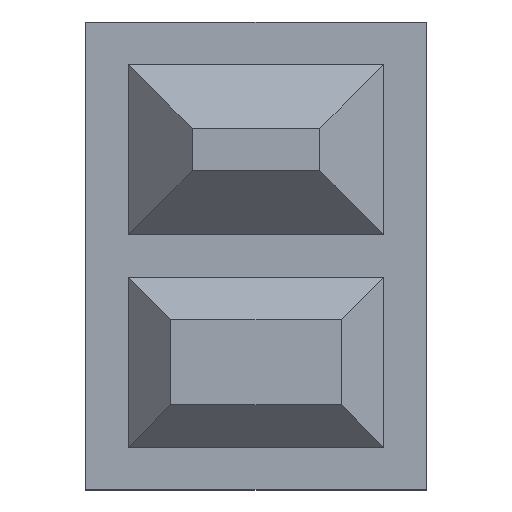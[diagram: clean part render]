
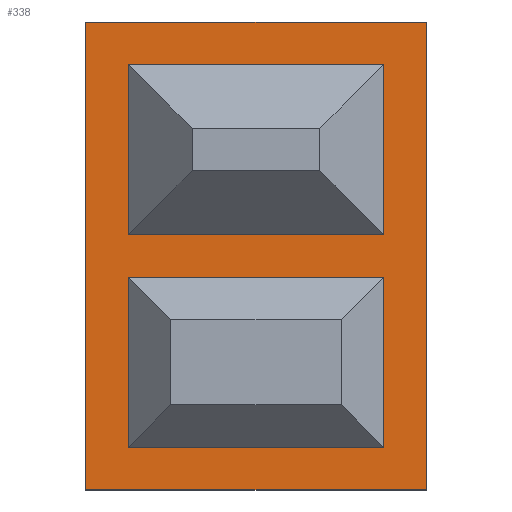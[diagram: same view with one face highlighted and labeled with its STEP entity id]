
A CAD part, top view. The second image highlights one B-rep face of the part: STEP entity #338.
In plain terms, the highlighted planar face has unit normal (0, 0, 1).
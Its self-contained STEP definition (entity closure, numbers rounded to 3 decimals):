
#24 = VERTEX_POINT('',#25);
#25 = CARTESIAN_POINT('',(0.,0.,1.));
#32 = PLANE('',#33);
#33 = AXIS2_PLACEMENT_3D('',#34,#35,#36);
#34 = CARTESIAN_POINT('',(0.,0.,0.));
#35 = DIRECTION('',(0.,1.,0.));
#36 = DIRECTION('',(1.,0.,0.));
#44 = PLANE('',#45);
#45 = AXIS2_PLACEMENT_3D('',#46,#47,#48);
#46 = CARTESIAN_POINT('',(0.,11.,0.));
#47 = DIRECTION('',(1.,0.,0.));
#48 = DIRECTION('',(0.,-1.,0.));
#56 = EDGE_CURVE('',#24,#57,#59,.T.);
#57 = VERTEX_POINT('',#58);
#58 = CARTESIAN_POINT('',(8.,0.,1.));
#59 = SURFACE_CURVE('',#60,(#64,#71),.PCURVE_S1.);
#60 = LINE('',#61,#62);
#61 = CARTESIAN_POINT('',(0.,0.,1.));
#62 = VECTOR('',#63,1.);
#63 = DIRECTION('',(1.,0.,0.));
#64 = PCURVE('',#32,#65);
#65 = DEFINITIONAL_REPRESENTATION('',(#66),#70);
#66 = LINE('',#67,#68);
#67 = CARTESIAN_POINT('',(0.,-1.));
#68 = VECTOR('',#69,1.);
#69 = DIRECTION('',(1.,0.));
#70 = ( GEOMETRIC_REPRESENTATION_CONTEXT(2) 
PARAMETRIC_REPRESENTATION_CONTEXT() REPRESENTATION_CONTEXT('2D SPACE',''
  ) );
#71 = PCURVE('',#72,#77);
#72 = PLANE('',#73);
#73 = AXIS2_PLACEMENT_3D('',#74,#75,#76);
#74 = CARTESIAN_POINT('',(0.,0.,1.));
#75 = DIRECTION('',(0.,0.,-1.));
#76 = DIRECTION('',(-1.,0.,0.));
#77 = DEFINITIONAL_REPRESENTATION('',(#78),#82);
#78 = LINE('',#79,#80);
#79 = CARTESIAN_POINT('',(0.,0.));
#80 = VECTOR('',#81,1.);
#81 = DIRECTION('',(-1.,0.));
#82 = ( GEOMETRIC_REPRESENTATION_CONTEXT(2) 
PARAMETRIC_REPRESENTATION_CONTEXT() REPRESENTATION_CONTEXT('2D SPACE',''
  ) );
#100 = PLANE('',#101);
#101 = AXIS2_PLACEMENT_3D('',#102,#103,#104);
#102 = CARTESIAN_POINT('',(8.,0.,0.));
#103 = DIRECTION('',(-1.,0.,0.));
#104 = DIRECTION('',(0.,1.,0.));
#142 = EDGE_CURVE('',#57,#143,#145,.T.);
#143 = VERTEX_POINT('',#144);
#144 = CARTESIAN_POINT('',(8.,11.,1.));
#145 = SURFACE_CURVE('',#146,(#150,#157),.PCURVE_S1.);
#146 = LINE('',#147,#148);
#147 = CARTESIAN_POINT('',(8.,0.,1.));
#148 = VECTOR('',#149,1.);
#149 = DIRECTION('',(0.,1.,0.));
#150 = PCURVE('',#100,#151);
#151 = DEFINITIONAL_REPRESENTATION('',(#152),#156);
#152 = LINE('',#153,#154);
#153 = CARTESIAN_POINT('',(0.,-1.));
#154 = VECTOR('',#155,1.);
#155 = DIRECTION('',(1.,0.));
#156 = ( GEOMETRIC_REPRESENTATION_CONTEXT(2) 
PARAMETRIC_REPRESENTATION_CONTEXT() REPRESENTATION_CONTEXT('2D SPACE',''
  ) );
#157 = PCURVE('',#72,#158);
#158 = DEFINITIONAL_REPRESENTATION('',(#159),#163);
#159 = LINE('',#160,#161);
#160 = CARTESIAN_POINT('',(-8.,0.));
#161 = VECTOR('',#162,1.);
#162 = DIRECTION('',(0.,1.));
#163 = ( GEOMETRIC_REPRESENTATION_CONTEXT(2) 
PARAMETRIC_REPRESENTATION_CONTEXT() REPRESENTATION_CONTEXT('2D SPACE',''
  ) );
#181 = PLANE('',#182);
#182 = AXIS2_PLACEMENT_3D('',#183,#184,#185);
#183 = CARTESIAN_POINT('',(8.,11.,0.));
#184 = DIRECTION('',(0.,-1.,0.));
#185 = DIRECTION('',(-1.,0.,0.));
#218 = EDGE_CURVE('',#143,#219,#221,.T.);
#219 = VERTEX_POINT('',#220);
#220 = CARTESIAN_POINT('',(0.,11.,1.));
#221 = SURFACE_CURVE('',#222,(#226,#233),.PCURVE_S1.);
#222 = LINE('',#223,#224);
#223 = CARTESIAN_POINT('',(8.,11.,1.));
#224 = VECTOR('',#225,1.);
#225 = DIRECTION('',(-1.,0.,0.));
#226 = PCURVE('',#181,#227);
#227 = DEFINITIONAL_REPRESENTATION('',(#228),#232);
#228 = LINE('',#229,#230);
#229 = CARTESIAN_POINT('',(0.,-1.));
#230 = VECTOR('',#231,1.);
#231 = DIRECTION('',(1.,0.));
#232 = ( GEOMETRIC_REPRESENTATION_CONTEXT(2) 
PARAMETRIC_REPRESENTATION_CONTEXT() REPRESENTATION_CONTEXT('2D SPACE',''
  ) );
#233 = PCURVE('',#72,#234);
#234 = DEFINITIONAL_REPRESENTATION('',(#235),#239);
#235 = LINE('',#236,#237);
#236 = CARTESIAN_POINT('',(-8.,11.));
#237 = VECTOR('',#238,1.);
#238 = DIRECTION('',(1.,0.));
#239 = ( GEOMETRIC_REPRESENTATION_CONTEXT(2) 
PARAMETRIC_REPRESENTATION_CONTEXT() REPRESENTATION_CONTEXT('2D SPACE',''
  ) );
#289 = EDGE_CURVE('',#219,#24,#290,.T.);
#290 = SURFACE_CURVE('',#291,(#295,#302),.PCURVE_S1.);
#291 = LINE('',#292,#293);
#292 = CARTESIAN_POINT('',(0.,11.,1.));
#293 = VECTOR('',#294,1.);
#294 = DIRECTION('',(0.,-1.,0.));
#295 = PCURVE('',#44,#296);
#296 = DEFINITIONAL_REPRESENTATION('',(#297),#301);
#297 = LINE('',#298,#299);
#298 = CARTESIAN_POINT('',(0.,-1.));
#299 = VECTOR('',#300,1.);
#300 = DIRECTION('',(1.,0.));
#301 = ( GEOMETRIC_REPRESENTATION_CONTEXT(2) 
PARAMETRIC_REPRESENTATION_CONTEXT() REPRESENTATION_CONTEXT('2D SPACE',''
  ) );
#302 = PCURVE('',#72,#303);
#303 = DEFINITIONAL_REPRESENTATION('',(#304),#308);
#304 = LINE('',#305,#306);
#305 = CARTESIAN_POINT('',(0.,11.));
#306 = VECTOR('',#307,1.);
#307 = DIRECTION('',(0.,-1.));
#308 = ( GEOMETRIC_REPRESENTATION_CONTEXT(2) 
PARAMETRIC_REPRESENTATION_CONTEXT() REPRESENTATION_CONTEXT('2D SPACE',''
  ) );
#338 = ADVANCED_FACE('',(#339),#72,.F.);
#339 = FACE_BOUND('',#340,.T.);
#340 = EDGE_LOOP('',(#341,#342,#343,#344));
#341 = ORIENTED_EDGE('',*,*,#56,.T.);
#342 = ORIENTED_EDGE('',*,*,#142,.T.);
#343 = ORIENTED_EDGE('',*,*,#218,.T.);
#344 = ORIENTED_EDGE('',*,*,#289,.T.);
